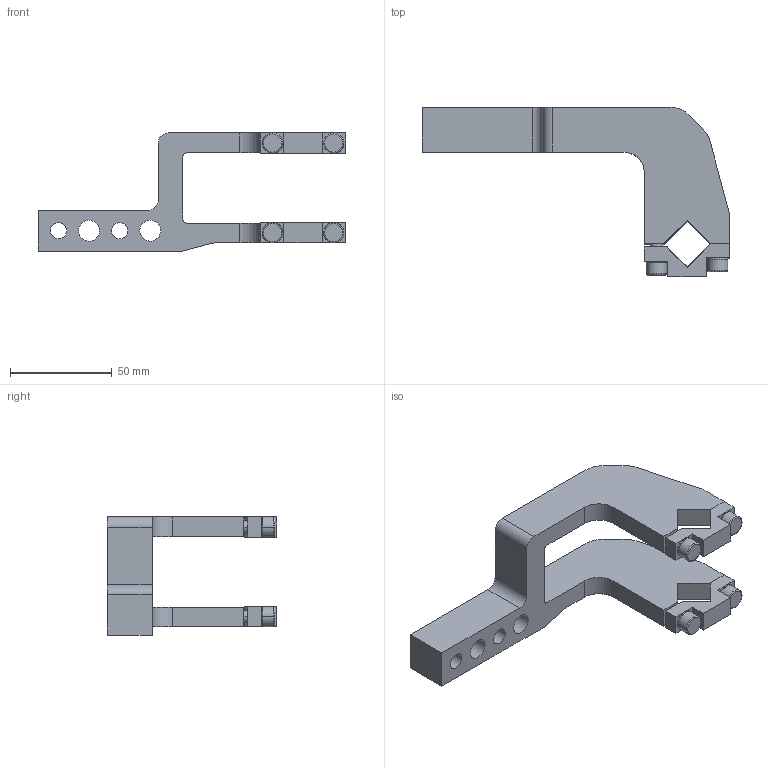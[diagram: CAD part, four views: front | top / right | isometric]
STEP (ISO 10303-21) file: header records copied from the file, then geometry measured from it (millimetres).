
FILE_DESCRIPTION(('CATIA V5 STEP Exchange'),'2;1');
FILE_NAME('E:\clampact\CLAMPACT\clampact\3D\Clampact Arm-3D\Clampact Arm-3D\K40-45-A61-S_Clampact.stp','2024-06-11T09:00:00+00:00',('none'),('none'),'CATIA Version 5 Release 19 SP 6 (IN-10)','CATIA V5 STEP AP203','none');
FILE_SCHEMA(('CONFIG_CONTROL_DESIGN'));
Length unit declared in the file: millimetre
Products named in the file (1): K40-45-A61-S_Clampact
Bounding box: 151 x 83 x 58 mm (x, y, z)
Volume: 105172.7 mm3; surface area: 33150 mm2
Topology: 1 solids, 5 shells, 166 faces, 420 edges, 264 vertices
Faces by surface type: plane 78, cylinder 53, cone 23, torus 12
Entity records: 4765 total; most frequent: CARTESIAN_POINT 1004, ORIENTED_EDGE 824, DIRECTION 627, EDGE_CURVE 412, AXIS2_PLACEMENT_3D 265, VERTEX_POINT 264, VECTOR 246, LINE 246
